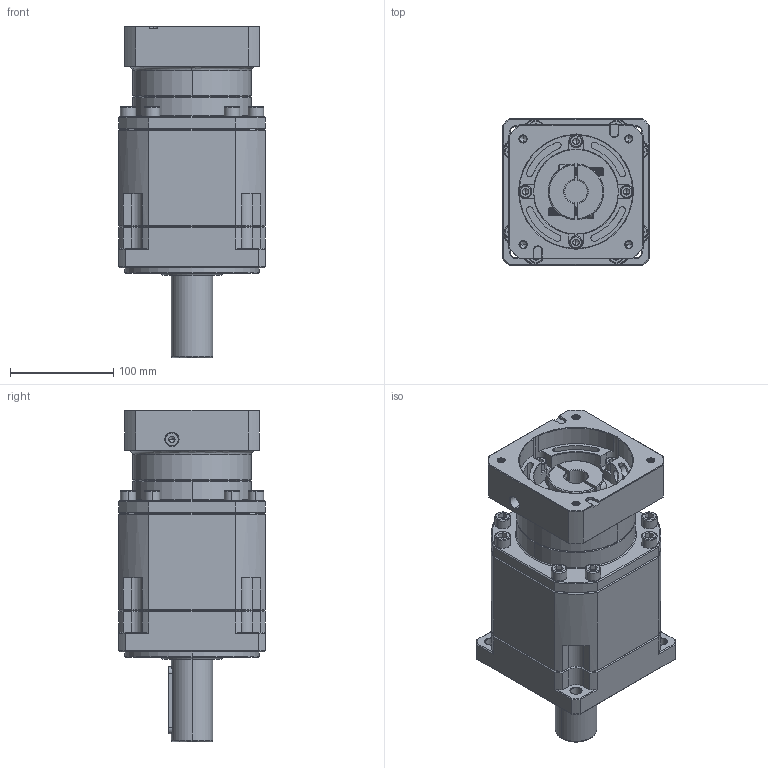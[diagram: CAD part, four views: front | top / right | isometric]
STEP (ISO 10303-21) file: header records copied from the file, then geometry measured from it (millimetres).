
FILE_DESCRIPTION (( 'STEP AP214' ), '1' );
FILE_NAME ('ZB142A-D40-L3-P2-22-110-145-M8.step', '2023-09-02T02:51:55', ( '' ), ( '' ), 'SwSTEP 2.0', 'SolidWorks 2016', '' );
FILE_SCHEMA (( 'AUTOMOTIVE_DESIGN' ));
Length unit declared in the file: millimetre
Products named in the file (1): ZB142A-D40-L3-P2-22-110-145-M8
Bounding box: 142 x 142 x 321.2 mm (x, y, z)
Volume: 3704017.2 mm3; surface area: 275461.1 mm2
Topology: 6 solids, 6 shells, 2600 faces, 6835 edges, 4355 vertices
Faces by surface type: plane 1231, cylinder 517, bspline 407, cone 389, torus 56
Entity records: 139144 total; most frequent: CARTESIAN_POINT 49745, ORIENTED_EDGE 13562, DIRECTION 11116, EDGE_CURVE 6781, VERTEX_POINT 4355, VECTOR 4288, LINE 4288, AXIS2_PLACEMENT_3D 3414
